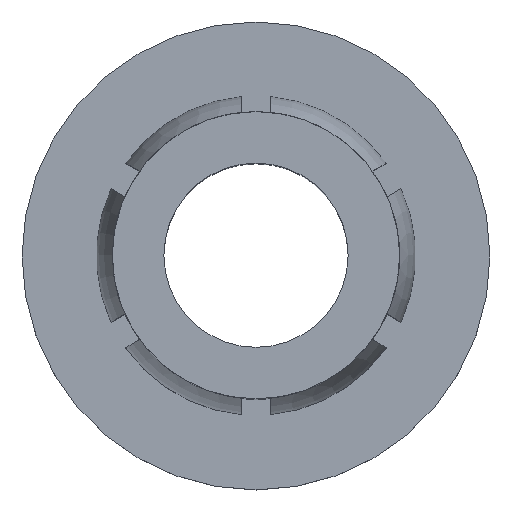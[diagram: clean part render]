
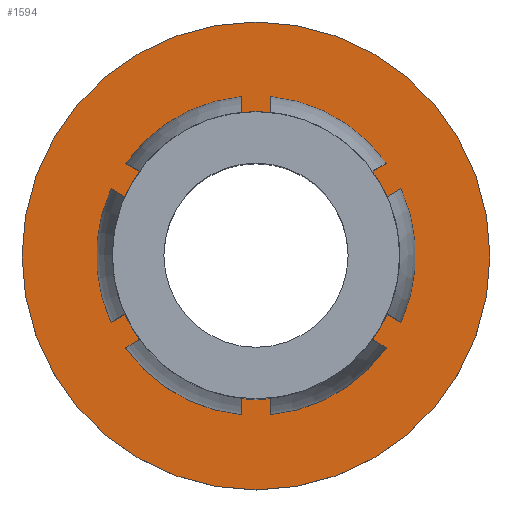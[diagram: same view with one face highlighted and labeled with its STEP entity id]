
A CAD part, top view. The second image highlights one B-rep face of the part: STEP entity #1594.
In plain terms, the highlighted planar face has unit normal (0, 0, 1).
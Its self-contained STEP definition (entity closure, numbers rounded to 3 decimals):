
#20 = CARTESIAN_POINT ( 'NONE',  ( 13.484, 0., -21.005 ) ) ;
#57 = CARTESIAN_POINT ( 'NONE',  ( 7.134, 0., -21.005 ) ) ;
#106 = FACE_OUTER_BOUND ( 'NONE', #873, .T. ) ;
#159 = ORIENTED_EDGE ( 'NONE', *, *, #1086, .T. ) ;
#192 = DIRECTION ( 'NONE',  ( -1., 0., 0. ) ) ;
#221 = CARTESIAN_POINT ( 'NONE',  ( 7.134, 0., -21.005 ) ) ;
#317 = PLANE ( 'NONE',  #1932 ) ;
#402 = CARTESIAN_POINT ( 'NONE',  ( 3.235, 0., -21.005 ) ) ;
#575 = DIRECTION ( 'NONE',  ( -1., 0., 0. ) ) ;
#577 = FACE_BOUND ( 'NONE', #835, .T. ) ;
#592 = DIRECTION ( 'NONE',  ( -1., 0., 0. ) ) ;
#695 = ORIENTED_EDGE ( 'NONE', *, *, #1854, .F. ) ;
#835 = EDGE_LOOP ( 'NONE', ( #159 ) ) ;
#873 = EDGE_LOOP ( 'NONE', ( #695 ) ) ;
#1086 = EDGE_CURVE ( 'NONE', #1639, #1639, #1703, .T. ) ;
#1104 = VERTEX_POINT ( 'NONE', #1745 ) ;
#1325 = DIRECTION ( 'NONE',  ( 0., 0., -1. ) ) ;
#1365 = DIRECTION ( 'NONE',  ( 0., 0., -1. ) ) ;
#1508 = CIRCLE ( 'NONE', #2152, 6.35 ) ;
#1515 = DIRECTION ( 'NONE',  ( 0., 0., -1. ) ) ;
#1594 = ADVANCED_FACE ( 'NONE', ( #106, #577 ), #317, .F. ) ;
#1639 = VERTEX_POINT ( 'NONE', #402 ) ;
#1703 = CIRCLE ( 'NONE', #2379, 3.899 ) ;
#1745 = CARTESIAN_POINT ( 'NONE',  ( 0.784, 0., -21.005 ) ) ;
#1854 = EDGE_CURVE ( 'NONE', #1104, #1104, #1508, .T. ) ;
#1932 = AXIS2_PLACEMENT_3D ( 'NONE', #20, #1325, #192 ) ;
#2152 = AXIS2_PLACEMENT_3D ( 'NONE', #57, #1365, #592 ) ;
#2379 = AXIS2_PLACEMENT_3D ( 'NONE', #221, #1515, #575 ) ;
